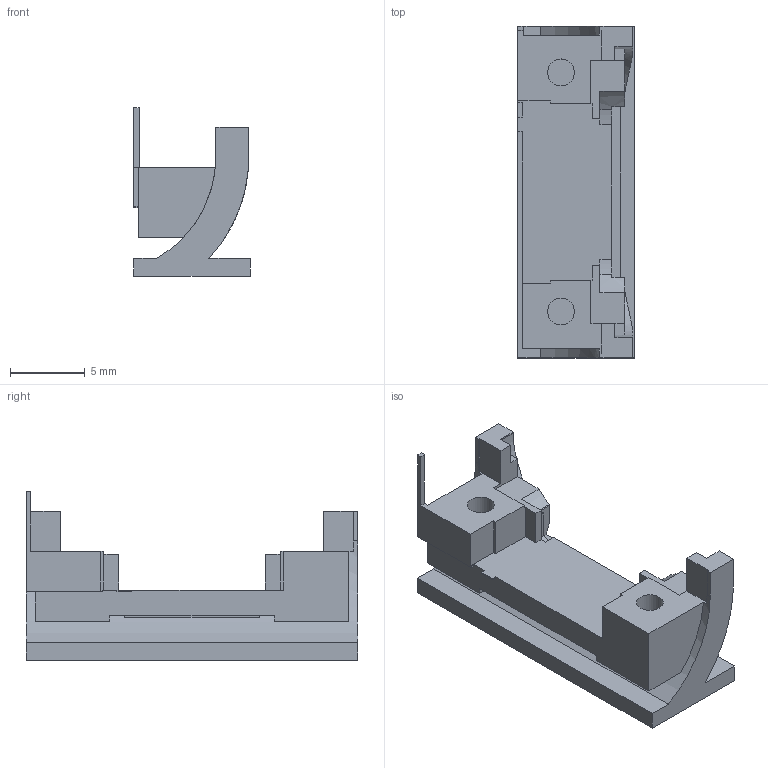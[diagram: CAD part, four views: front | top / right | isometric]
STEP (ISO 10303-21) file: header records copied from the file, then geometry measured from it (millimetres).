
FILE_DESCRIPTION(('Open CASCADE Model'),'2;1');
FILE_NAME('Open CASCADE Shape Model','2026-09-15T14:11:01',('Author'),( 'Open CASCADE'),'Open CASCADE STEP processor 7.7','Open CASCADE 7.7' ,'Unknown');
FILE_SCHEMA(('AUTOMOTIVE_DESIGN { 1 0 10303 214 1 1 1 1 }'));
Length unit declared in the file: millimetre
Products named in the file (1): SOLID
Bounding box: 7.8 x 22.2 x 11.3 mm (x, y, z)
Volume: 747.8 mm3; surface area: 1031.6 mm2
Topology: 1 solids, 1 shells, 97 faces, 285 edges, 192 vertices
Faces by surface type: plane 84, cylinder 13
Full cylindrical faces by diameter (mm): 1.8 x2
Entity records: 7042 total; most frequent: CARTESIAN_POINT 1415, DIRECTION 1027, LINE 729, VECTOR 729, ORIENTED_EDGE 570, PCURVE 570, DEFINITIONAL_REPRESENTATION 570, EDGE_CURVE 285
